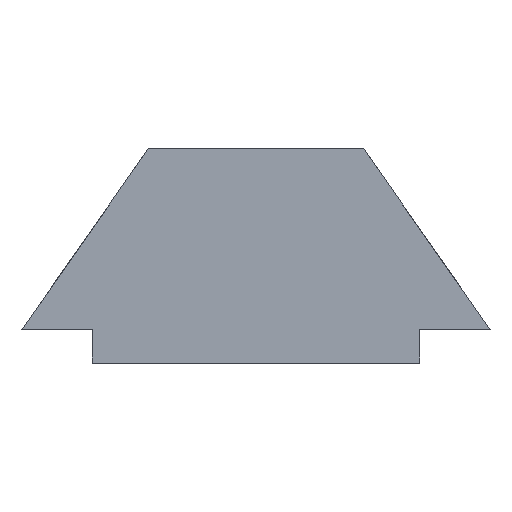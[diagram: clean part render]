
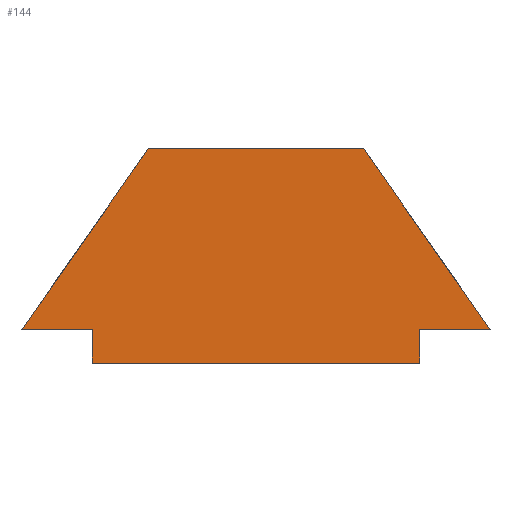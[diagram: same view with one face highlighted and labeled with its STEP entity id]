
A CAD part, left-side view. The second image highlights one B-rep face of the part: STEP entity #144.
In plain terms, the highlighted planar face has unit normal (-1, 0, 0) as drawn and (1, 0, 0) by its records, which use the part's own axes.
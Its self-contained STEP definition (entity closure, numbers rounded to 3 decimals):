
#144=ADVANCED_FACE('',(#209),#2445,.T.);
#209=FACE_OUTER_BOUND('',#278,.T.);
#278=EDGE_LOOP('',(#552,#553,#554,#555,#556,#557,#558,#559));
#552=ORIENTED_EDGE('',*,*,#1734,.F.);
#553=ORIENTED_EDGE('',*,*,#1731,.F.);
#554=ORIENTED_EDGE('',*,*,#1726,.F.);
#555=ORIENTED_EDGE('',*,*,#1723,.F.);
#556=ORIENTED_EDGE('',*,*,#1720,.F.);
#557=ORIENTED_EDGE('',*,*,#1717,.F.);
#558=ORIENTED_EDGE('',*,*,#1736,.T.);
#559=ORIENTED_EDGE('',*,*,#1709,.F.);
#917=PCURVE('',#2437,#1277);
#926=PCURVE('',#2439,#1286);
#930=PCURVE('',#2440,#1290);
#934=PCURVE('',#2441,#1294);
#938=PCURVE('',#2442,#1298);
#944=PCURVE('',#2443,#1304);
#948=PCURVE('',#2444,#1308);
#952=PCURVE('',#2445,#1312);
#953=PCURVE('',#2445,#1313);
#954=PCURVE('',#2445,#1314);
#955=PCURVE('',#2445,#1315);
#956=PCURVE('',#2445,#1316);
#957=PCURVE('',#2445,#1317);
#958=PCURVE('',#2445,#1318);
#959=PCURVE('',#2445,#1319);
#976=PCURVE('',#2438,#1336);
#1277=DEFINITIONAL_REPRESENTATION('',(#2086),#4907);
#1286=DEFINITIONAL_REPRESENTATION('',(#2101),#4907);
#1290=DEFINITIONAL_REPRESENTATION('',(#2108),#4907);
#1294=DEFINITIONAL_REPRESENTATION('',(#2115),#4907);
#1298=DEFINITIONAL_REPRESENTATION('',(#2122),#4907);
#1304=DEFINITIONAL_REPRESENTATION('',(#2131),#4907);
#1308=DEFINITIONAL_REPRESENTATION('',(#2138),#4907);
#1312=DEFINITIONAL_REPRESENTATION('',(#2143),#4907);
#1313=DEFINITIONAL_REPRESENTATION('',(#2144),#4907);
#1314=DEFINITIONAL_REPRESENTATION('',(#2145),#4907);
#1315=DEFINITIONAL_REPRESENTATION('',(#2146),#4907);
#1316=DEFINITIONAL_REPRESENTATION('',(#2147),#4907);
#1317=DEFINITIONAL_REPRESENTATION('',(#2148),#4907);
#1318=DEFINITIONAL_REPRESENTATION('',(#2150),#4907);
#1319=DEFINITIONAL_REPRESENTATION('',(#2151),#4907);
#1336=DEFINITIONAL_REPRESENTATION('',(#2168),#4907);
#1529=SURFACE_CURVE('',#2085,(#917,#959),.PCURVE_S1.);
#1537=SURFACE_CURVE('',#2100,(#926,#957),.PCURVE_S1.);
#1540=SURFACE_CURVE('',#2107,(#930,#956),.PCURVE_S1.);
#1543=SURFACE_CURVE('',#2114,(#934,#955),.PCURVE_S1.);
#1546=SURFACE_CURVE('',#2121,(#938,#954),.PCURVE_S1.);
#1551=SURFACE_CURVE('',#2130,(#944,#953),.PCURVE_S1.);
#1554=SURFACE_CURVE('',#2137,(#948,#952),.PCURVE_S1.);
#1556=SURFACE_CURVE('',#2149,(#958,#976),.PCURVE_S1.);
#1709=EDGE_CURVE('',#2349,#2350,#1529,.T.);
#1717=EDGE_CURVE('',#2353,#2355,#1537,.T.);
#1720=EDGE_CURVE('',#2355,#2357,#1540,.T.);
#1723=EDGE_CURVE('',#2357,#2359,#1543,.T.);
#1726=EDGE_CURVE('',#2359,#2361,#1546,.T.);
#1731=EDGE_CURVE('',#2361,#2363,#1551,.T.);
#1734=EDGE_CURVE('',#2363,#2349,#1554,.T.);
#1736=EDGE_CURVE('',#2353,#2350,#1556,.T.);
#2085=B_SPLINE_CURVE_WITH_KNOTS('',1,(#4111,#4112),.UNSPECIFIED.,.F.,.F.,
(2,2),(-3.906,0.),.UNSPECIFIED.);
#2086=B_SPLINE_CURVE_WITH_KNOTS('',1,(#4113,#4114),.UNSPECIFIED.,.F.,.F.,
(2,2),(-3.906,0.),.UNSPECIFIED.);
#2100=B_SPLINE_CURVE_WITH_KNOTS('',1,(#4187,#4188),.UNSPECIFIED.,.F.,.F.,
(2,2),(3.819,7.725),.UNSPECIFIED.);
#2101=B_SPLINE_CURVE_WITH_KNOTS('',1,(#4189,#4190),.UNSPECIFIED.,.F.,.F.,
(2,2),(3.819,7.725),.UNSPECIFIED.);
#2107=B_SPLINE_CURVE_WITH_KNOTS('',1,(#4201,#4202),.UNSPECIFIED.,.F.,.F.,
(2,2),(7.725,8.975),.UNSPECIFIED.);
#2108=B_SPLINE_CURVE_WITH_KNOTS('',1,(#4203,#4204),.UNSPECIFIED.,.F.,.F.,
(2,2),(7.725,8.975),.UNSPECIFIED.);
#2114=B_SPLINE_CURVE_WITH_KNOTS('',1,(#4215,#4216),.UNSPECIFIED.,.F.,.F.,
(2,2),(8.975,9.575),.UNSPECIFIED.);
#2115=B_SPLINE_CURVE_WITH_KNOTS('',1,(#4217,#4218),.UNSPECIFIED.,.F.,.F.,
(2,2),(8.975,9.575),.UNSPECIFIED.);
#2121=B_SPLINE_CURVE_WITH_KNOTS('',1,(#4229,#4230),.UNSPECIFIED.,.F.,.F.,
(2,2),(9.575,15.375),.UNSPECIFIED.);
#2122=B_SPLINE_CURVE_WITH_KNOTS('',1,(#4231,#4232),.UNSPECIFIED.,.F.,.F.,
(2,2),(9.575,15.375),.UNSPECIFIED.);
#2130=B_SPLINE_CURVE_WITH_KNOTS('',1,(#4303,#4304),.UNSPECIFIED.,.F.,.F.,
(2,2),(15.375,15.975),.UNSPECIFIED.);
#2131=B_SPLINE_CURVE_WITH_KNOTS('',1,(#4305,#4306),.UNSPECIFIED.,.F.,.F.,
(2,2),(15.375,15.975),.UNSPECIFIED.);
#2137=B_SPLINE_CURVE_WITH_KNOTS('',1,(#4317,#4318),.UNSPECIFIED.,.F.,.F.,
(2,2),(15.975,17.225),.UNSPECIFIED.);
#2138=B_SPLINE_CURVE_WITH_KNOTS('',1,(#4319,#4320),.UNSPECIFIED.,.F.,.F.,
(2,2),(15.975,17.225),.UNSPECIFIED.);
#2143=B_SPLINE_CURVE_WITH_KNOTS('',1,(#4329,#4330),.UNSPECIFIED.,.F.,.F.,
(2,2),(15.975,17.225),.UNSPECIFIED.);
#2144=B_SPLINE_CURVE_WITH_KNOTS('',1,(#4331,#4332),.UNSPECIFIED.,.F.,.F.,
(2,2),(15.375,15.975),.UNSPECIFIED.);
#2145=B_SPLINE_CURVE_WITH_KNOTS('',1,(#4333,#4334),.UNSPECIFIED.,.F.,.F.,
(2,2),(9.575,15.375),.UNSPECIFIED.);
#2146=B_SPLINE_CURVE_WITH_KNOTS('',1,(#4335,#4336),.UNSPECIFIED.,.F.,.F.,
(2,2),(8.975,9.575),.UNSPECIFIED.);
#2147=B_SPLINE_CURVE_WITH_KNOTS('',1,(#4337,#4338),.UNSPECIFIED.,.F.,.F.,
(2,2),(7.725,8.975),.UNSPECIFIED.);
#2148=B_SPLINE_CURVE_WITH_KNOTS('',1,(#4339,#4340),.UNSPECIFIED.,.F.,.F.,
(2,2),(3.819,7.725),.UNSPECIFIED.);
#2149=B_SPLINE_CURVE_WITH_KNOTS('',1,(#4341,#4342),.UNSPECIFIED.,.F.,.F.,
(2,2),(-3.819,0.),.UNSPECIFIED.);
#2150=B_SPLINE_CURVE_WITH_KNOTS('',1,(#4343,#4344),.UNSPECIFIED.,.F.,.F.,
(2,2),(-3.819,0.),.UNSPECIFIED.);
#2151=B_SPLINE_CURVE_WITH_KNOTS('',1,(#4345,#4346),.UNSPECIFIED.,.F.,.F.,
(2,2),(-3.906,0.),.UNSPECIFIED.);
#2168=B_SPLINE_CURVE_WITH_KNOTS('',1,(#4408,#4409),.UNSPECIFIED.,.F.,.F.,
(2,2),(-3.819,0.),.UNSPECIFIED.);
#2349=VERTEX_POINT('',#4041);
#2350=VERTEX_POINT('',#4042);
#2353=VERTEX_POINT('',#4045);
#2355=VERTEX_POINT('',#4047);
#2357=VERTEX_POINT('',#4049);
#2359=VERTEX_POINT('',#4051);
#2361=VERTEX_POINT('',#4053);
#2363=VERTEX_POINT('',#4055);
#2437=PLANE('',#2536);
#2438=PLANE('',#2537);
#2439=PLANE('',#2538);
#2440=PLANE('',#2539);
#2441=PLANE('',#2540);
#2442=PLANE('',#2541);
#2443=PLANE('',#2542);
#2444=PLANE('',#2543);
#2445=PLANE('',#2544);
#2536=AXIS2_PLACEMENT_3D('',#3995,#2600,$);
#2537=AXIS2_PLACEMENT_3D('',#3996,#2601,$);
#2538=AXIS2_PLACEMENT_3D('',#3997,#2602,$);
#2539=AXIS2_PLACEMENT_3D('',#3998,#2603,$);
#2540=AXIS2_PLACEMENT_3D('',#3999,#2604,$);
#2541=AXIS2_PLACEMENT_3D('',#4000,#2605,$);
#2542=AXIS2_PLACEMENT_3D('',#4001,#2606,$);
#2543=AXIS2_PLACEMENT_3D('',#4002,#2607,$);
#2544=AXIS2_PLACEMENT_3D('',#4039,#2608,$);
#2600=DIRECTION('',(0.,0.819,-0.574));
#2601=DIRECTION('',(0.,0.,-1.));
#2602=DIRECTION('',(0.,-0.819,-0.574));
#2603=DIRECTION('',(0.,0.,1.));
#2604=DIRECTION('',(0.,-1.,0.));
#2605=DIRECTION('',(0.,0.,1.));
#2606=DIRECTION('',(0.,1.,0.));
#2607=DIRECTION('',(0.,0.,1.));
#2608=DIRECTION('',(1.,0.,0.));
#3995=CARTESIAN_POINT('',(-781.,290.85,142.));
#3996=CARTESIAN_POINT('',(-781.,293.091,145.2));
#3997=CARTESIAN_POINT('',(-781.,296.909,145.2));
#3998=CARTESIAN_POINT('',(-781.,299.15,142.));
#3999=CARTESIAN_POINT('',(-781.,297.9,142.));
#4000=CARTESIAN_POINT('',(-781.,297.9,141.4));
#4001=CARTESIAN_POINT('',(-781.,292.1,141.4));
#4002=CARTESIAN_POINT('',(-781.,292.1,142.));
#4039=CARTESIAN_POINT('',(-781.,300.188,145.675));
#4041=CARTESIAN_POINT('',(-781.,290.85,142.));
#4042=CARTESIAN_POINT('',(-781.,293.091,145.2));
#4045=CARTESIAN_POINT('',(-781.,296.909,145.2));
#4047=CARTESIAN_POINT('',(-781.,299.15,142.));
#4049=CARTESIAN_POINT('',(-781.,297.9,142.));
#4051=CARTESIAN_POINT('',(-781.,297.9,141.4));
#4053=CARTESIAN_POINT('',(-781.,292.1,141.4));
#4055=CARTESIAN_POINT('',(-781.,292.1,142.));
#4111=CARTESIAN_POINT('',(-781.,290.85,142.));
#4112=CARTESIAN_POINT('',(-781.,293.091,145.2));
#4113=CARTESIAN_POINT('',(-3.906,0.));
#4114=CARTESIAN_POINT('',(0.,0.));
#4187=CARTESIAN_POINT('',(-781.,296.909,145.2));
#4188=CARTESIAN_POINT('',(-781.,299.15,142.));
#4189=CARTESIAN_POINT('',(3.819,0.));
#4190=CARTESIAN_POINT('',(7.725,0.));
#4201=CARTESIAN_POINT('',(-781.,299.15,142.));
#4202=CARTESIAN_POINT('',(-781.,297.9,142.));
#4203=CARTESIAN_POINT('',(7.725,0.));
#4204=CARTESIAN_POINT('',(8.975,0.));
#4215=CARTESIAN_POINT('',(-781.,297.9,142.));
#4216=CARTESIAN_POINT('',(-781.,297.9,141.4));
#4217=CARTESIAN_POINT('',(8.975,0.));
#4218=CARTESIAN_POINT('',(9.575,0.));
#4229=CARTESIAN_POINT('',(-781.,297.9,141.4));
#4230=CARTESIAN_POINT('',(-781.,292.1,141.4));
#4231=CARTESIAN_POINT('',(9.575,0.));
#4232=CARTESIAN_POINT('',(15.375,0.));
#4303=CARTESIAN_POINT('',(-781.,292.1,141.4));
#4304=CARTESIAN_POINT('',(-781.,292.1,142.));
#4305=CARTESIAN_POINT('',(15.375,0.));
#4306=CARTESIAN_POINT('',(15.975,0.));
#4317=CARTESIAN_POINT('',(-781.,292.1,142.));
#4318=CARTESIAN_POINT('',(-781.,290.85,142.));
#4319=CARTESIAN_POINT('',(15.975,0.));
#4320=CARTESIAN_POINT('',(17.225,0.));
#4329=CARTESIAN_POINT('',(-1.25,0.));
#4330=CARTESIAN_POINT('',(0.,0.));
#4331=CARTESIAN_POINT('',(-1.25,0.6));
#4332=CARTESIAN_POINT('',(-1.25,0.));
#4333=CARTESIAN_POINT('',(-7.05,0.6));
#4334=CARTESIAN_POINT('',(-1.25,0.6));
#4335=CARTESIAN_POINT('',(-7.05,0.));
#4336=CARTESIAN_POINT('',(-7.05,0.6));
#4337=CARTESIAN_POINT('',(-8.3,0.));
#4338=CARTESIAN_POINT('',(-7.05,0.));
#4339=CARTESIAN_POINT('',(-6.059,-3.2));
#4340=CARTESIAN_POINT('',(-8.3,0.));
#4341=CARTESIAN_POINT('',(-781.,296.909,145.2));
#4342=CARTESIAN_POINT('',(-781.,293.091,145.2));
#4343=CARTESIAN_POINT('',(-6.059,-3.2));
#4344=CARTESIAN_POINT('',(-2.241,-3.2));
#4345=CARTESIAN_POINT('',(0.,0.));
#4346=CARTESIAN_POINT('',(-2.241,-3.2));
#4408=CARTESIAN_POINT('',(3.819,0.));
#4409=CARTESIAN_POINT('',(0.,0.));
#4907=(
GEOMETRIC_REPRESENTATION_CONTEXT(2)
PARAMETRIC_REPRESENTATION_CONTEXT()
REPRESENTATION_CONTEXT('pspace','')
);
